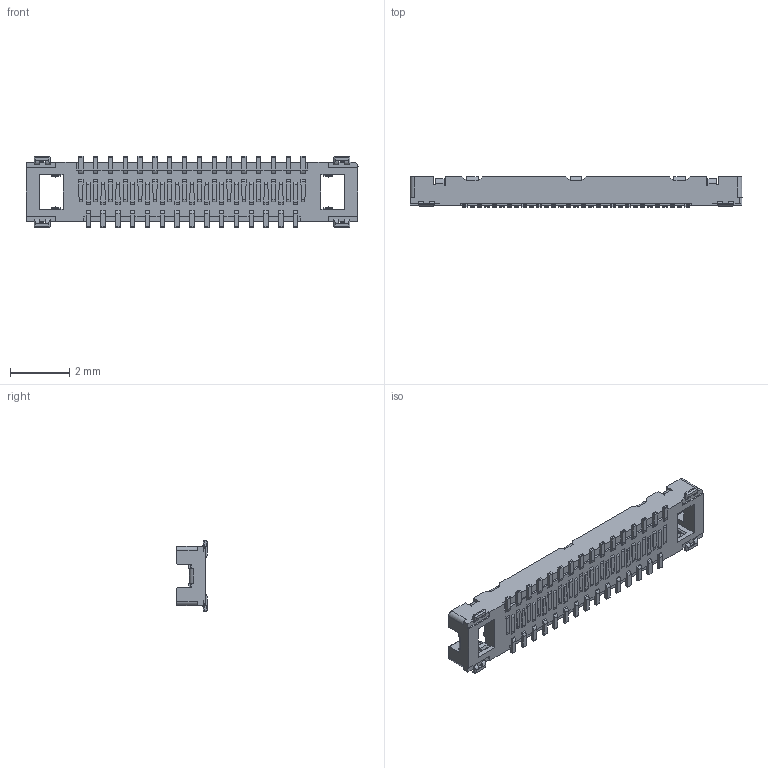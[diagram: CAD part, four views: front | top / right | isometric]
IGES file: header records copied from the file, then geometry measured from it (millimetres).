
Start section: SolidWorks IGES file using analytic representation for surfaces
Global section: file name: C:\Working\koyanagi\CABLINE-UX II\251222 CABLINE-UX II_Web用中間ファイル\IGES\20533-030EC CABLINE-UX II RECEPTACLE ASSEMBLY_IGES_R7_ALL.IGS; native system: SolidWorks 2023; preprocessor: SolidWorks 2023; author: 09051; date: 251225.100845; units: millimetre
Bounding box: 11.2 x 1.04 x 2.4 mm (x, y, z)
Surface area: 83.2 mm2 (no closed solid volume)
Topology: 0 solids, 0 shells, 910 faces, 5255 edges, 5208 vertices
Faces by surface type: bspline 709, revolution 201
